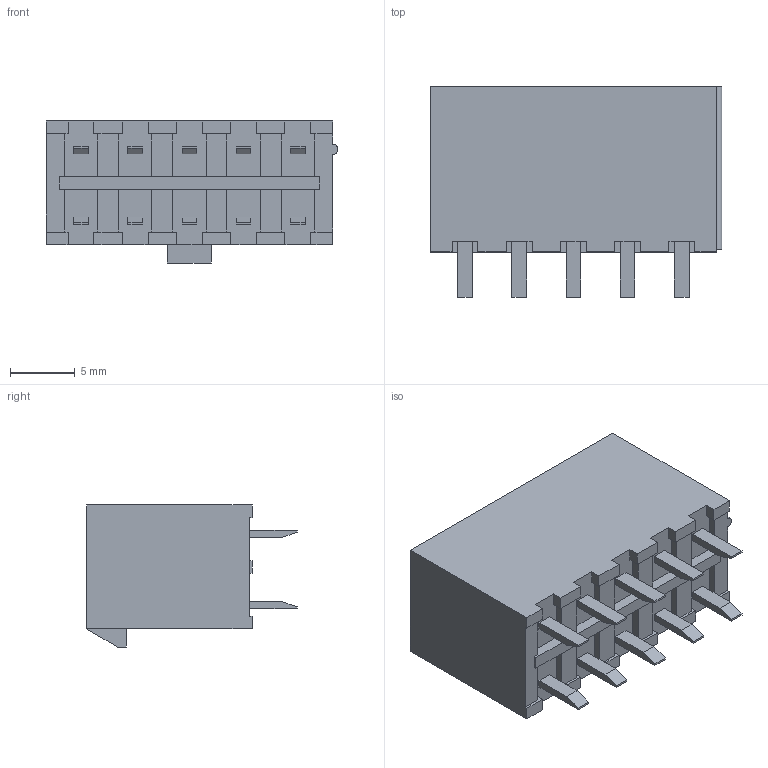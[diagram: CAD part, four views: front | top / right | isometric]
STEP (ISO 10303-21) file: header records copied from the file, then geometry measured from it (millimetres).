
FILE_DESCRIPTION (( 'STEP AP214' ), '1' );
FILE_NAME ('4973-10TSB.STEP', '2018-03-01T12:06:24', ( 'ADMIN' ), ( '' ), 'SwSTEP 2.0', 'SolidWorks 2011', '' );
FILE_SCHEMA (( 'AUTOMOTIVE_DESIGN' ));
Length unit declared in the file: millimetre
Products named in the file (2): h+c; 4973-10TSB
Assembly tree (1 placements, depth 2):
  4973-10TSB
    h+c
Bounding box: 22.6 x 16.3 x 11 mm (x, y, z)
Volume: 1599.3 mm3; surface area: 2979.1 mm2
Topology: 1 solids, 1 shells, 281 faces, 747 edges, 498 vertices
Faces by surface type: plane 280, cylinder 1
Entity records: 11447 total; most frequent: CARTESIAN_POINT 1530, ORIENTED_EDGE 1494, DIRECTION 1319, EDGE_CURVE 747, VECTOR 745, LINE 745, VERTEX_POINT 498, EDGE_LOOP 311
